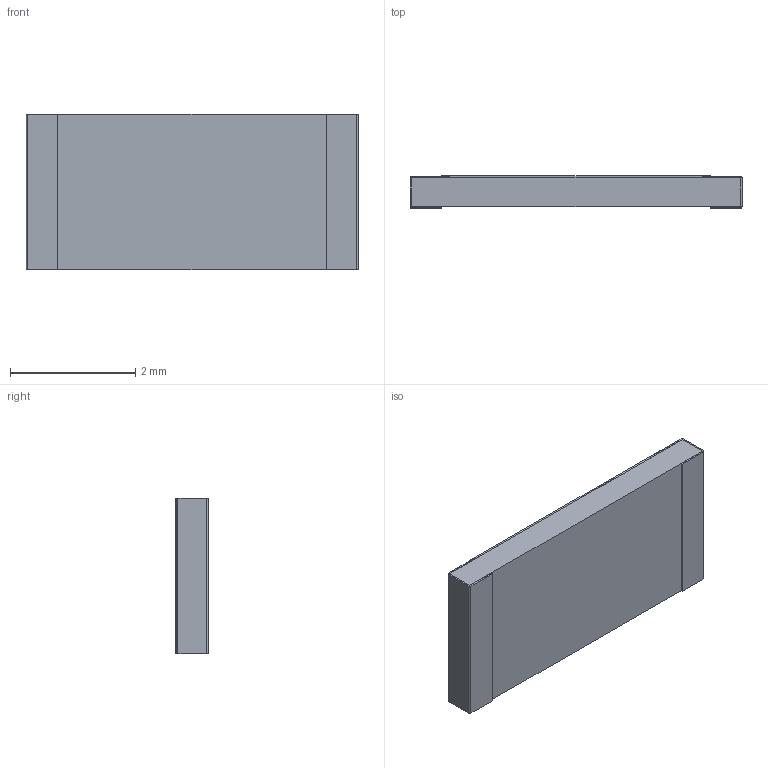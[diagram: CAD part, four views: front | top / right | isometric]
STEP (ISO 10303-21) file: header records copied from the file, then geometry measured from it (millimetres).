
FILE_DESCRIPTION(/* description */ (''),/* implementation_level */ '2;1');
FILE_NAME(/* name */ 'C:\Users\Public\Documents\Autodesk\Inventor LT 2014\Workspace\Vishay\STEP Files\M55342-08.stp',/* time_stamp */ '2019-09-11T15:07:58-05:00',/* author */ ('Neil'),/* organization */ (''),/* preprocessor_version */ 'ST-DEVELOPER v15.2',/* originating_system */ 'Autodesk Inventor LT ',/* authorisation */ '');
FILE_SCHEMA (('AUTOMOTIVE_DESIGN { 1 0 10303 214 3 1 1 }'));
Length unit declared in the file: inch
Products named in the file (1): M55342-08
Bounding box: 5.31 x 0.52 x 2.49 mm (x, y, z)
Volume: 6.5 mm3; surface area: 86.5 mm2
Topology: 5 solids, 5 shells, 50 faces, 120 edges, 80 vertices
Faces by surface type: plane 46, cylinder 4
Entity records: 1482 total; most frequent: CARTESIAN_POINT 251, ORIENTED_EDGE 240, DIRECTION 230, EDGE_CURVE 120, LINE 112, VECTOR 112, VERTEX_POINT 80, AXIS2_PLACEMENT_3D 59
